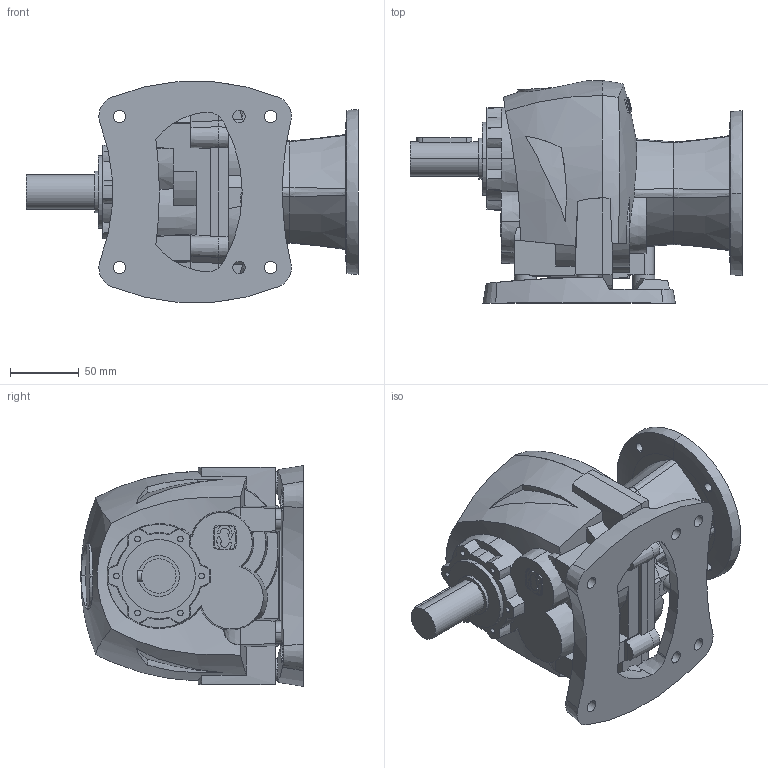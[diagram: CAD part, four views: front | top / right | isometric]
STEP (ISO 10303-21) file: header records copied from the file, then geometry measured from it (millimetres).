
FILE_DESCRIPTION (( 'STEP AP203' ), '1' );
FILE_NAME ('RBA2_IFL80B4_FSW_OSH25L50.STEP', '2013-02-07T11:31:10', ( '' ), ( '' ), 'SwSTEP 2.0', 'SolidWorks 2012', '' );
FILE_SCHEMA (( 'CONFIG_CONTROL_DESIGN' ));
Length unit declared in the file: millimetre
Products named in the file (1): RBA2_IFL80B4_FSW_OSH25L50
Bounding box: 241.5 x 161.88 x 160.7 mm (x, y, z)
Volume: 2042836.1 mm3; surface area: 177020.6 mm2
Topology: 1 solids, 1 shells, 529 faces, 1492 edges, 992 vertices
Faces by surface type: plane 225, cylinder 146, bspline 80, cone 74, torus 4
Entity records: 24426 total; most frequent: CARTESIAN_POINT 11882, ORIENTED_EDGE 2984, DIRECTION 2067, EDGE_CURVE 1492, VERTEX_POINT 992, AXIS2_PLACEMENT_3D 778, B_SPLINE_CURVE_WITH_KNOTS 596, EDGE_LOOP 586
